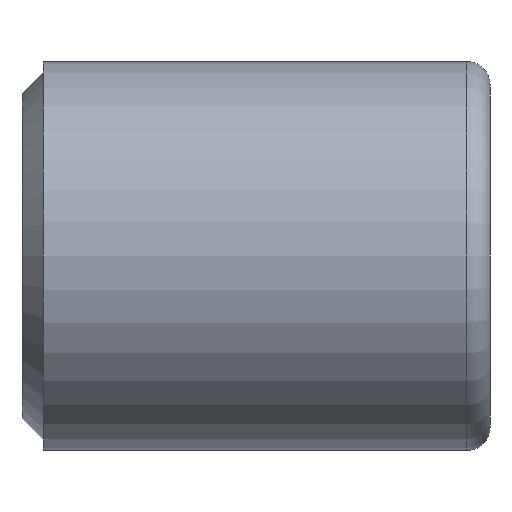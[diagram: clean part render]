
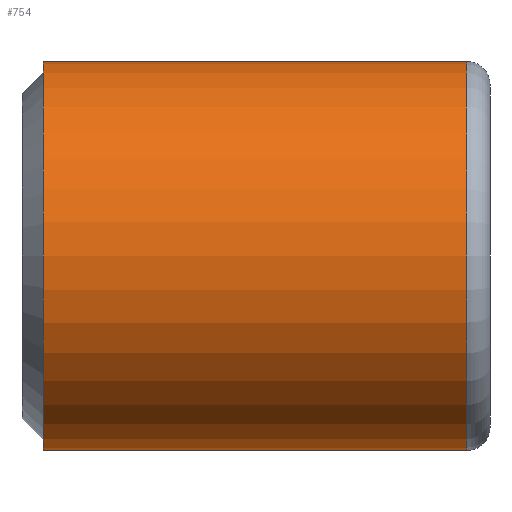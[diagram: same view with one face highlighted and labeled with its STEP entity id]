
A CAD part, front view. The second image highlights one B-rep face of the part: STEP entity #754.
In plain terms, the highlighted cylindrical face has radius 15.989 mm (diameter 31.979 mm), a partial arc.
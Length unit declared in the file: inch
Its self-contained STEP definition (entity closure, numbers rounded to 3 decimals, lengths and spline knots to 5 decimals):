
#37 = CIRCLE ( 'NONE', #576, 0.6295 ) ;
#45 = DIRECTION ( 'NONE',  ( -1., 0., 0. ) ) ;
#107 = VERTEX_POINT ( 'NONE', #153 ) ;
#112 = DIRECTION ( 'NONE',  ( -1., 0., 0. ) ) ;
#153 = CARTESIAN_POINT ( 'NONE',  ( 0.06874, 0., -0.6295 ) ) ;
#154 = VECTOR ( 'NONE', #352, 39.37008 ) ;
#156 = CARTESIAN_POINT ( 'NONE',  ( 0., 0., -0.6295 ) ) ;
#188 = CYLINDRICAL_SURFACE ( 'NONE', #518, 0.6295 ) ;
#197 = VECTOR ( 'NONE', #750, 39.37008 ) ;
#284 = CIRCLE ( 'NONE', #421, 0.6295 ) ;
#352 = DIRECTION ( 'NONE',  ( -1., 0., 0. ) ) ;
#359 = CARTESIAN_POINT ( 'NONE',  ( 0., 0., 0.6295 ) ) ;
#363 = LINE ( 'NONE', #359, #154 ) ;
#405 = EDGE_LOOP ( 'NONE', ( #413, #409, #713, #470 ) ) ;
#408 = CARTESIAN_POINT ( 'NONE',  ( 1.43924, 0., 0. ) ) ;
#409 = ORIENTED_EDGE ( 'NONE', *, *, #428, .T. ) ;
#413 = ORIENTED_EDGE ( 'NONE', *, *, #556, .F. ) ;
#416 = EDGE_CURVE ( 'NONE', #107, #695, #37, .T. ) ;
#421 = AXIS2_PLACEMENT_3D ( 'NONE', #408, #45, #485 ) ;
#428 = EDGE_CURVE ( 'NONE', #781, #550, #284, .T. ) ;
#430 = CARTESIAN_POINT ( 'NONE',  ( 1.43924, 0., -0.6295 ) ) ;
#452 = EDGE_CURVE ( 'NONE', #550, #695, #363, .T. ) ;
#454 = LINE ( 'NONE', #156, #197 ) ;
#470 = ORIENTED_EDGE ( 'NONE', *, *, #416, .F. ) ;
#485 = DIRECTION ( 'NONE',  ( 0., 0., 1. ) ) ;
#507 = CARTESIAN_POINT ( 'NONE',  ( 0., 0., 0. ) ) ;
#518 = AXIS2_PLACEMENT_3D ( 'NONE', #507, #951, #587 ) ;
#550 = VERTEX_POINT ( 'NONE', #838 ) ;
#556 = EDGE_CURVE ( 'NONE', #781, #107, #454, .T. ) ;
#576 = AXIS2_PLACEMENT_3D ( 'NONE', #848, #112, #928 ) ;
#587 = DIRECTION ( 'NONE',  ( 0., 0., 1. ) ) ;
#633 = CARTESIAN_POINT ( 'NONE',  ( 0.06874, 0., 0.6295 ) ) ;
#695 = VERTEX_POINT ( 'NONE', #633 ) ;
#713 = ORIENTED_EDGE ( 'NONE', *, *, #452, .T. ) ;
#750 = DIRECTION ( 'NONE',  ( -1., 0., 0. ) ) ;
#754 = ADVANCED_FACE ( 'NONE', ( #925 ), #188, .T. ) ;
#781 = VERTEX_POINT ( 'NONE', #430 ) ;
#838 = CARTESIAN_POINT ( 'NONE',  ( 1.43924, 0., 0.6295 ) ) ;
#848 = CARTESIAN_POINT ( 'NONE',  ( 0.06874, 0., 0. ) ) ;
#925 = FACE_OUTER_BOUND ( 'NONE', #405, .T. ) ;
#928 = DIRECTION ( 'NONE',  ( 0., 0., 1. ) ) ;
#951 = DIRECTION ( 'NONE',  ( -1., 0., 0. ) ) ;
